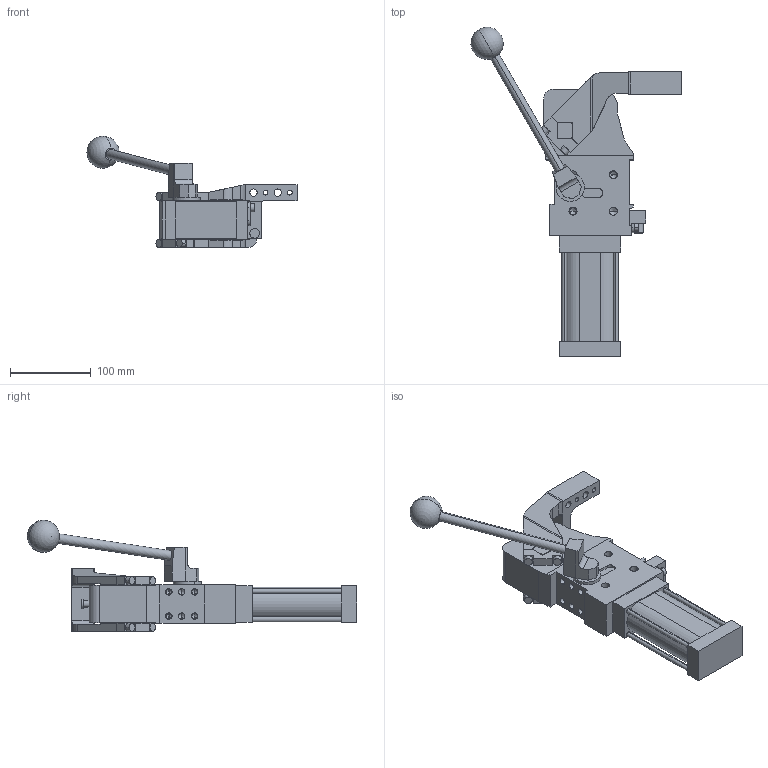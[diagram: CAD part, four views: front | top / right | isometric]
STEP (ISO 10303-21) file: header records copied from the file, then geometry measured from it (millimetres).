
FILE_DESCRIPTION (( 'STEP AP214' ), '1' );
FILE_NAME ('cplm50lav3ssi1g_26.STEP', '2023-01-26T13:56:58', ( '' ), ( '' ), 'SwSTEP 2.0', 'SolidWorks 2022', '' );
FILE_SCHEMA (( 'AUTOMOTIVE_DESIGN' ));
Length unit declared in the file: millimetre
Products named in the file (5): cplm50lav3ssi1g_26; leva_dx_offset_45_cpl50; blocchetto_VEP_0; comando_manuale_cplm_50; meccanica_cplm_50
Assembly tree (4 placements, depth 2):
  cplm50lav3ssi1g_26
    meccanica_cplm_50
    blocchetto_VEP_0
    leva_dx_offset_45_cpl50
    comando_manuale_cplm_50
Bounding box: 260.57 x 408.56 x 138.5 mm (x, y, z)
Volume: 1483582.8 mm3; surface area: 184927.1 mm2
Topology: 4 solids, 4 shells, 433 faces, 1114 edges, 695 vertices
Faces by surface type: plane 214, cylinder 167, cone 50, sphere 2
Entity records: 14434 total; most frequent: CARTESIAN_POINT 2298, DIRECTION 2278, ORIENTED_EDGE 2126, EDGE_CURVE 1063, AXIS2_PLACEMENT_3D 790, VECTOR 698, LINE 698, VERTEX_POINT 692
